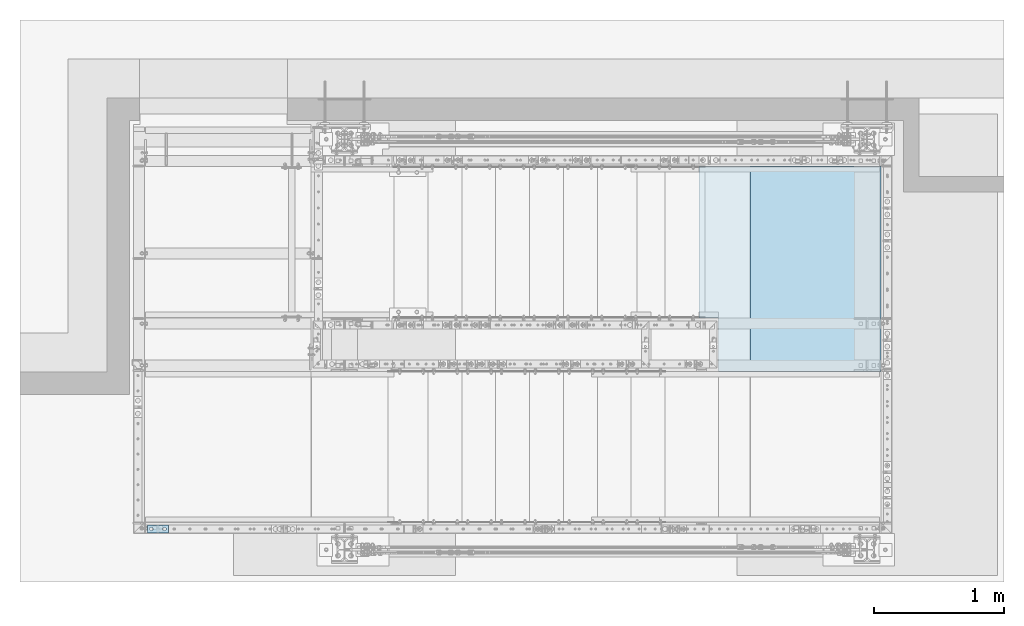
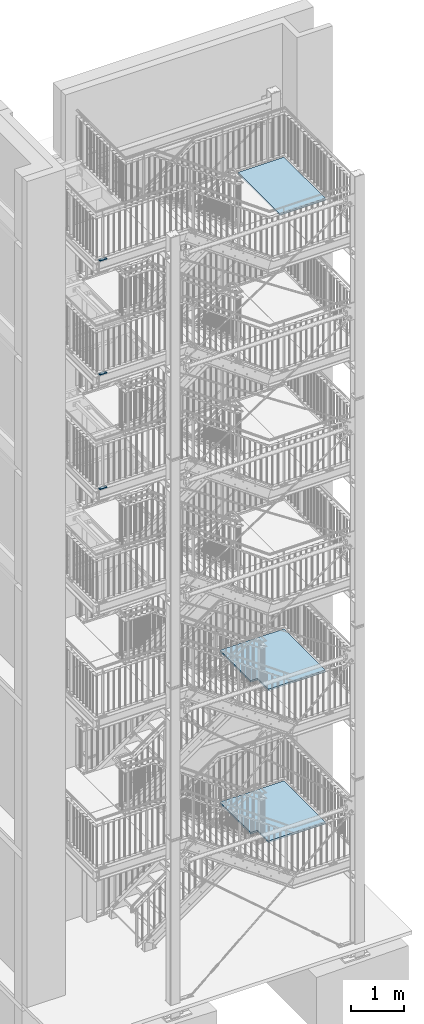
# One storey, part 147 of 831: 6 plates, 8 openings.
"""IFC2X3 building model written with IfcOpenShell, lengths in millimetres."""

import ifcopenshell
import ifcopenshell.guid

model = None  # the IFC model being written
_history = None  # IfcOwnerHistory: only IFC2X3 demands one
_inside = {}  # id of a spatial element -> (the spatial element, [elements in it])
_under = {}  # id of a project, library or spatial element -> (it, [spatial elements below it])
_declared = {}  # id of a project -> (the project, [libraries it declares])
_typed = {}  # id of a type object -> (the type object, [elements of that type])
_made_of = {}  # id of a material, layer set ... -> (it, [elements and type objects made of it])


def new_model(schema):
    """Start an empty IFC model of exactly this schema.

    Asked for "IFC4X3", IfcOpenShell would pick the latest addendum, in which some entities
    have other attributes; the version numbers below select the first issue.
    IFC2X3 requires an IfcOwnerHistory on every rooted entity: one is made here for all.
    """
    global model, _history
    if schema == "IFC4X3":
        model = ifcopenshell.file(schema_version=(4, 3, 0, 0))
    else:
        model = ifcopenshell.file(schema=schema)
    _inside.clear()
    _under.clear()
    _declared.clear()
    _typed.clear()
    _made_of.clear()
    _history = None
    if model.schema == "IFC2X3":
        org = make("IfcOrganization", Name="unknown")
        user = make(
            "IfcPersonAndOrganization",
            ThePerson=make("IfcPerson", FamilyName="unknown"),
            TheOrganization=org,
        )
        app = make(
            "IfcApplication",
            ApplicationDeveloper=org,
            Version="unknown",
            ApplicationFullName="unknown",
            ApplicationIdentifier="unknown",
        )
        _history = make(
            "IfcOwnerHistory",
            OwningUser=user,
            OwningApplication=app,
            ChangeAction="ADDED",
            CreationDate=0,
        )
    return model


def make(cls, **values):
    """One entity of the class cls with the attributes given. An attribute that is None is left unset."""
    return model.create_entity(
        cls, **{name: value for name, value in values.items() if value is not None}
    )


def entity(cls, *values):
    """Any entity or typed value of the class cls, its attributes in the order of the schema. None: left unset."""
    e = model.create_entity(cls)
    for i, value in enumerate(values):
        if value is not None:
            e[i] = value
    return e


def rooted(cls, **values):
    """An entity with a GlobalId (a new one), such as an element, a storey or a relation."""
    return make(cls, GlobalId=ifcopenshell.guid.new(), OwnerHistory=_history, **values)


def si_unit(unit_type, name, prefix=None):
    """IfcSIUnit, for example si_unit("LENGTHUNIT", "METRE", prefix="MILLI")."""
    return make("IfcSIUnit", UnitType=unit_type, Prefix=prefix, Name=name)


def converted_unit(unit_type, name, factor, base, dimensions=None, offset=None):
    """IfcConversionBasedUnit, such as the inch: factor (a typed value) times the base unit."""
    return make(
        "IfcConversionBasedUnit"
        if offset is None
        else "IfcConversionBasedUnitWithOffset",
        ConversionOffset=offset,
        Dimensions=None
        if dimensions is None
        else entity("IfcDimensionalExponents", *dimensions),
        UnitType=unit_type,
        Name=name,
        ConversionFactor=make(
            "IfcMeasureWithUnit", ValueComponent=factor, UnitComponent=base
        ),
    )


def assignment(units):
    """IfcUnitAssignment: the units of a project."""
    return None if units is None else make("IfcUnitAssignment", Units=units)


def point(xyz):
    """IfcCartesianPoint."""
    return None if xyz is None else make("IfcCartesianPoint", Coordinates=xyz)


def direction(xyz):
    """IfcDirection."""
    return None if xyz is None else make("IfcDirection", DirectionRatios=xyz)


def frame(location, z_axis=None, x_axis=None):
    """IfcAxis2Placement3D, a coordinate frame: its origin and axes. An axis left out is left unset."""
    return make(
        "IfcAxis2Placement3D",
        Location=point(location),
        Axis=direction(z_axis),
        RefDirection=direction(x_axis),
    )


def frame_2d(location, x_axis=None):
    """IfcAxis2Placement2D, a coordinate frame in the plane: its origin and x axis."""
    return make(
        "IfcAxis2Placement2D", Location=point(location), RefDirection=direction(x_axis)
    )


def origin():
    """The frame at (0, 0, 0) with its axes left unset."""
    return frame((0.0, 0.0, 0.0))


def origin_with_axes():
    """The frame at (0, 0, 0) with the z axis (0, 0, 1) and the x axis (1, 0, 0) written out."""
    return frame((0.0, 0.0, 0.0), z_axis=(0.0, 0.0, 1.0), x_axis=(1.0, 0.0, 0.0))


def place(relative_to, where):
    """IfcLocalPlacement: puts the frame where relative to a parent placement (None: the world)."""
    return make(
        "IfcLocalPlacement", PlacementRelTo=relative_to, RelativePlacement=where
    )


def context(
    kind, dimensions, precision=None, world=None, true_north=None, identifier=None
):
    """IfcGeometricRepresentationContext, for example the 3D "Model" context."""
    return make(
        "IfcGeometricRepresentationContext",
        ContextIdentifier=identifier,
        ContextType=kind,
        CoordinateSpaceDimension=dimensions,
        Precision=precision,
        WorldCoordinateSystem=world,
        TrueNorth=true_north,
    )


def project(units=None, contexts=None):
    """IfcProject with its units and contexts."""
    return rooted(
        "IfcProject",
        Name="project",
        RepresentationContexts=contexts,
        UnitsInContext=assignment(units),
    )


def spatial(cls, under=None, at=None, **own):
    """A site, building, storey or space (cls), placed at a placement, below another one or the project."""
    s = rooted(cls, ObjectPlacement=at, **own)
    if under is not None:
        _under.setdefault(under.id(), (under, []))[1].append(s)
    return s


def polyline(points):
    """IfcPolyline through the points."""
    return make("IfcPolyline", Points=[point(p) for p in points])


def circle_curve(where, radius):
    """IfcCircle in the frame where."""
    return make("IfcCircle", Position=where, Radius=radius)


def line_curve(start, along, magnitude):
    """IfcLine from a point along a vector."""
    return make(
        "IfcLine",
        Pnt=point(start),
        Dir=make("IfcVector", Orientation=direction(along), Magnitude=magnitude),
    )


def trimmed(basis, trim1, trim2, sense, master):
    """IfcTrimmedCurve: the piece of a basis curve between two trims."""
    return make(
        "IfcTrimmedCurve",
        BasisCurve=basis,
        Trim1=trim1,
        Trim2=trim2,
        SenseAgreement=sense,
        MasterRepresentation=master,
    )


def segment(curve, same_sense, transition):
    """IfcCompositeCurveSegment."""
    return make(
        "IfcCompositeCurveSegment",
        Transition=transition,
        SameSense=same_sense,
        ParentCurve=curve,
    )


def composite_curve(segments, self_intersect=None):
    """IfcCompositeCurve: segments joined end to end."""
    return make("IfcCompositeCurve", Segments=segments, SelfIntersect=self_intersect)


def outline(outer, holes=None, kind="AREA"):
    """IfcArbitraryClosedProfileDef: a profile drawn as a closed curve; with holes, ...WithVoids."""
    if holes is None:
        return make("IfcArbitraryClosedProfileDef", ProfileType=kind, OuterCurve=outer)
    return make(
        "IfcArbitraryProfileDefWithVoids",
        ProfileType=kind,
        OuterCurve=outer,
        InnerCurves=holes,
    )


def extrude(swept, where, along, depth):
    """IfcExtrudedAreaSolid: the profile swept, set in the frame where, extruded along a direction by depth."""
    return make(
        "IfcExtrudedAreaSolid",
        SweptArea=swept,
        Position=where,
        ExtrudedDirection=direction(along),
        Depth=depth,
    )


def shape(context_of_items, identifier, shape_type, items):
    """IfcShapeRepresentation: the items that make up one representation, for example the "Body"."""
    return make(
        "IfcShapeRepresentation",
        ContextOfItems=context_of_items,
        RepresentationIdentifier=identifier,
        RepresentationType=shape_type,
        Items=items,
    )


def material(Name=None, Category=None):
    """IfcMaterial."""
    return make("IfcMaterial", Name=Name, Category=Category)


def layer(
    of_material, thickness, ventilated=None, Name=None, Category=None, Priority=None
):
    """IfcMaterialLayer: one layer of a wall or slab, of a material (None: an air gap)."""
    return make(
        "IfcMaterialLayer",
        Material=of_material,
        LayerThickness=thickness,
        IsVentilated=ventilated,
        Name=Name,
        Category=Category,
        Priority=Priority,
    )


def layer_set(layers, Name=None):
    """IfcMaterialLayerSet."""
    return make("IfcMaterialLayerSet", MaterialLayers=layers, LayerSetName=Name)


def made_of(thing, what):
    """Note that an element or type object is made of a material, layer set ...; save() writes the relation."""
    if what is not None:
        _made_of.setdefault(what.id(), (what, []))[1].append(thing)
    return thing


def element(
    cls,
    number,
    at=None,
    inside=None,
    cuts=None,
    type_object=None,
    material=None,
    context=None,
    identifier="Body",
    shape_type=None,
    held_by="IfcProductDefinitionShape",
    body=None,
    shapes=None,
    **own,
):
    """One element of the class cls, such as IfcWall. Its Tag is "e" and its number.

    at: its placement. inside: the storey or other place that contains it. cuts: it is an
    opening in that element (IfcRelVoidsElement). A single representation is given by context,
    identifier, shape_type and body (its items); several are given by shapes. held_by: the class
    of the entity that holds the representations. save() writes the other relations.
    """
    e = rooted(cls, Tag="e%d" % number, ObjectPlacement=at, **own)
    if body is not None:
        shapes = [shape(context, identifier, shape_type, body)]
    if shapes is not None:
        e.Representation = make(held_by, Representations=shapes)
    if inside is not None:
        _inside.setdefault(inside.id(), (inside, []))[1].append(e)
    if cuts is not None:
        rooted(
            "IfcRelVoidsElement", RelatingBuildingElement=cuts, RelatedOpeningElement=e
        )
    if type_object is not None:
        _typed.setdefault(type_object.id(), (type_object, []))[1].append(e)
    return made_of(e, material)


def aggregate(whole, parts):
    """IfcRelAggregates: a whole, such as a stair, and the parts it consists of."""
    return rooted("IfcRelAggregates", RelatingObject=whole, RelatedObjects=parts)


def save(model, path):
    """Write the relations noted so far, then the file.

    IfcRelAggregates (storeys below a building ...), IfcRelContainedInSpatialStructure (elements
    in a storey), IfcRelDefinesByType, IfcRelAssociatesMaterial and IfcRelDeclares: one each for
    every whole, place, type object, material and project.
    """
    for whole, parts in _under.values():
        aggregate(whole, parts)
    for where, things in _inside.values():
        rooted(
            "IfcRelContainedInSpatialStructure",
            RelatedElements=things,
            RelatingStructure=where,
        )
    for kind, things in _typed.values():
        rooted("IfcRelDefinesByType", RelatedObjects=things, RelatingType=kind)
    for what, things in _made_of.values():
        rooted("IfcRelAssociatesMaterial", RelatedObjects=things, RelatingMaterial=what)
    for by, libraries in _declared.values():
        rooted("IfcRelDeclares", RelatingContext=by, RelatedDefinitions=libraries)
    model.write(path)


model = new_model("IFC2X3")

# Units and contexts
model_context = context("Model", 3, precision=1e-09, world=origin_with_axes())
ifc_project = project(units=[si_unit("LENGTHUNIT", "METRE", prefix="MILLI"), si_unit("AREAUNIT", "SQUARE_METRE"), si_unit("VOLUMEUNIT", "CUBIC_METRE"), converted_unit("PLANEANGLEUNIT", "DEGREE", entity("IfcPlaneAngleMeasure", 0.01745329), si_unit("PLANEANGLEUNIT", "RADIAN"), dimensions=[0, 0, 0, 0, 0, 0, 0])], contexts=[model_context])

# Site, building, storey
site_placement = place(None, origin_with_axes())
site = spatial("IfcSite", under=ifc_project, at=site_placement, Name="Site", CompositionType="ELEMENT")
building_placement = place(site_placement, origin_with_axes())
building = spatial("IfcBuilding", under=site, at=building_placement, Name="Struktur 1", CompositionType="ELEMENT")
storey_placement = place(building_placement, origin_with_axes())
storey = spatial("IfcBuildingStorey", under=building, at=storey_placement, Name="Default Storey", CompositionType="ELEMENT", Elevation=0.0)

# Plate, openings
ifc_material = material(Name="S235JR")
ifc_layer_1 = layer(ifc_material, 20.0)
ifc_layer_set_1 = layer_set([ifc_layer_1], Name="S235JR")
plate_1_placement = place(None, frame((3344.79154585, 4496.736971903, 12579.0), z_axis=(0.0, 0.0, 1.0), x_axis=(1.0, 0.0, 0.0)))
plate_1 = element("IfcPlate", 1, at=plate_1_placement, inside=storey, material=ifc_layer_set_1, Name="Plate#513", ObjectType="Plate#513", context=model_context, shape_type="SweptSolid", body=[
    extrude(outline(polyline([(0.0, 0.0), (160.0, 0.0), (160.0, 60.0), (0.0, 60.0), (0.0, 0.0)])), origin_with_axes(), (0.0, 0.0, 1.0), 20.0),
])
opening_1_placement = place(plate_1_placement, frame((38.0, 37.001, 20.5), z_axis=(0.0, 0.0, 1.0), x_axis=(-1.0, 0.0, 0.0)))
element("IfcOpeningElement", 2, at=opening_1_placement, cuts=plate_1, ObjectType="Opening", context=model_context, shape_type="SweptSolid", body=[
    extrude(outline(composite_curve([segment(trimmed(line_curve((0.0, 0.0), (1.0, 0.0), 16.0), [point((0.0, 0.0))], [point((16.0, 0.0))], True, "CARTESIAN"), True, "CONTINUOUS"), segment(trimmed(circle_curve(frame_2d((16.0, 7.001), x_axis=(1.0, 0.0)), 7.001), [point((16.0, 0.0))], [point((16.0, 14.002))], True, "CARTESIAN"), True, "CONTINUOUS"), segment(trimmed(line_curve((16.0, 14.002), (-1.0, 0.0), 16.0), [point((16.0, 14.002))], [point((0.0, 14.002))], True, "CARTESIAN"), True, "CONTINUOUS"), segment(trimmed(circle_curve(frame_2d((0.0, 7.001), x_axis=(1.0, 0.0)), 7.001), [point((0.0, 14.002))], [point((0.0, 0.0))], True, "CARTESIAN"), True, "CONTINUOUS")], self_intersect=False)), origin(), (0.0, 0.0, -1.0), 21.0),
])
opening_2_placement = place(plate_1_placement, frame((138.0, 37.001, 20.5), z_axis=(0.0, 0.0, 1.0), x_axis=(-1.0, 0.0, 0.0)))
element("IfcOpeningElement", 3, at=opening_2_placement, cuts=plate_1, ObjectType="Opening", context=model_context, shape_type="SweptSolid", body=[
    extrude(outline(composite_curve([segment(trimmed(line_curve((0.0, 0.0), (1.0, 0.0), 16.0), [point((0.0, 0.0))], [point((16.0, 0.0))], True, "CARTESIAN"), True, "CONTINUOUS"), segment(trimmed(circle_curve(frame_2d((16.0, 7.001), x_axis=(1.0, 0.0)), 7.001), [point((16.0, 0.0))], [point((16.0, 14.002))], True, "CARTESIAN"), True, "CONTINUOUS"), segment(trimmed(line_curve((16.0, 14.002), (-1.0, 0.0), 16.0), [point((16.0, 14.002))], [point((0.0, 14.002))], True, "CARTESIAN"), True, "CONTINUOUS"), segment(trimmed(circle_curve(frame_2d((0.0, 7.001), x_axis=(1.0, 0.0)), 7.001), [point((0.0, 14.002))], [point((0.0, 0.0))], True, "CARTESIAN"), True, "CONTINUOUS")], self_intersect=False)), origin(), (0.0, 0.0, -1.0), 21.0),
])

plate_2_placement = place(None, frame((3344.79154585, 4496.736971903, 15214.0), z_axis=(0.0, 0.0, 1.0), x_axis=(1.0, 0.0, 0.0)))
plate_2 = element("IfcPlate", 4, at=plate_2_placement, inside=storey, material=ifc_layer_set_1, Name="Plate#513", ObjectType="Plate#513", context=model_context, shape_type="SweptSolid", body=[
    extrude(outline(polyline([(0.0, 0.0), (160.0, 0.0), (160.0, 60.0), (0.0, 60.0), (0.0, 0.0)])), origin_with_axes(), (0.0, 0.0, 1.0), 20.0),
])
opening_3_placement = place(plate_2_placement, frame((38.0, 37.001, 20.5), z_axis=(0.0, 0.0, 1.0), x_axis=(-1.0, 0.0, 0.0)))
element("IfcOpeningElement", 5, at=opening_3_placement, cuts=plate_2, ObjectType="Opening", context=model_context, shape_type="SweptSolid", body=[
    extrude(outline(composite_curve([segment(trimmed(line_curve((0.0, 0.0), (1.0, 0.0), 16.0), [point((0.0, 0.0))], [point((16.0, 0.0))], True, "CARTESIAN"), True, "CONTINUOUS"), segment(trimmed(circle_curve(frame_2d((16.0, 7.001), x_axis=(1.0, 0.0)), 7.001), [point((16.0, 0.0))], [point((16.0, 14.002))], True, "CARTESIAN"), True, "CONTINUOUS"), segment(trimmed(line_curve((16.0, 14.002), (-1.0, 0.0), 16.0), [point((16.0, 14.002))], [point((0.0, 14.002))], True, "CARTESIAN"), True, "CONTINUOUS"), segment(trimmed(circle_curve(frame_2d((0.0, 7.001), x_axis=(1.0, 0.0)), 7.001), [point((0.0, 14.002))], [point((0.0, 0.0))], True, "CARTESIAN"), True, "CONTINUOUS")], self_intersect=False)), origin(), (0.0, 0.0, -1.0), 21.0),
])
opening_4_placement = place(plate_2_placement, frame((138.0, 37.001, 20.5), z_axis=(0.0, 0.0, 1.0), x_axis=(-1.0, 0.0, 0.0)))
element("IfcOpeningElement", 6, at=opening_4_placement, cuts=plate_2, ObjectType="Opening", context=model_context, shape_type="SweptSolid", body=[
    extrude(outline(composite_curve([segment(trimmed(line_curve((0.0, 0.0), (1.0, 0.0), 16.0), [point((0.0, 0.0))], [point((16.0, 0.0))], True, "CARTESIAN"), True, "CONTINUOUS"), segment(trimmed(circle_curve(frame_2d((16.0, 7.001), x_axis=(1.0, 0.0)), 7.001), [point((16.0, 0.0))], [point((16.0, 14.002))], True, "CARTESIAN"), True, "CONTINUOUS"), segment(trimmed(line_curve((16.0, 14.002), (-1.0, 0.0), 16.0), [point((16.0, 14.002))], [point((0.0, 14.002))], True, "CARTESIAN"), True, "CONTINUOUS"), segment(trimmed(circle_curve(frame_2d((0.0, 7.001), x_axis=(1.0, 0.0)), 7.001), [point((0.0, 14.002))], [point((0.0, 0.0))], True, "CARTESIAN"), True, "CONTINUOUS")], self_intersect=False)), origin(), (0.0, 0.0, -1.0), 21.0),
])

plate_3_placement = place(None, frame((3344.79154585, 4496.736971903, 17834.0), z_axis=(0.0, 0.0, 1.0), x_axis=(1.0, 0.0, 0.0)))
plate_3 = element("IfcPlate", 7, at=plate_3_placement, inside=storey, material=ifc_layer_set_1, Name="Plate#513", ObjectType="Plate#513", context=model_context, shape_type="SweptSolid", body=[
    extrude(outline(polyline([(0.0, 0.0), (160.0, 0.0), (160.0, 60.0), (0.0, 60.0), (0.0, 0.0)])), origin_with_axes(), (0.0, 0.0, 1.0), 20.0),
])
opening_5_placement = place(plate_3_placement, frame((38.0, 37.001, 20.5), z_axis=(0.0, 0.0, 1.0), x_axis=(-1.0, 0.0, 0.0)))
element("IfcOpeningElement", 8, at=opening_5_placement, cuts=plate_3, ObjectType="Opening", context=model_context, shape_type="SweptSolid", body=[
    extrude(outline(composite_curve([segment(trimmed(line_curve((0.0, 0.0), (1.0, 0.0), 16.0), [point((0.0, 0.0))], [point((16.0, 0.0))], True, "CARTESIAN"), True, "CONTINUOUS"), segment(trimmed(circle_curve(frame_2d((16.0, 7.001), x_axis=(1.0, 0.0)), 7.001), [point((16.0, 0.0))], [point((16.0, 14.002))], True, "CARTESIAN"), True, "CONTINUOUS"), segment(trimmed(line_curve((16.0, 14.002), (-1.0, 0.0), 16.0), [point((16.0, 14.002))], [point((0.0, 14.002))], True, "CARTESIAN"), True, "CONTINUOUS"), segment(trimmed(circle_curve(frame_2d((0.0, 7.001), x_axis=(1.0, 0.0)), 7.001), [point((0.0, 14.002))], [point((0.0, 0.0))], True, "CARTESIAN"), True, "CONTINUOUS")], self_intersect=False)), origin(), (0.0, 0.0, -1.0), 21.0),
])
opening_6_placement = place(plate_3_placement, frame((138.0, 37.001, 20.5), z_axis=(0.0, 0.0, 1.0), x_axis=(-1.0, 0.0, 0.0)))
element("IfcOpeningElement", 9, at=opening_6_placement, cuts=plate_3, ObjectType="Opening", context=model_context, shape_type="SweptSolid", body=[
    extrude(outline(composite_curve([segment(trimmed(line_curve((0.0, 0.0), (1.0, 0.0), 16.0), [point((0.0, 0.0))], [point((16.0, 0.0))], True, "CARTESIAN"), True, "CONTINUOUS"), segment(trimmed(circle_curve(frame_2d((16.0, 7.001), x_axis=(1.0, 0.0)), 7.001), [point((16.0, 0.0))], [point((16.0, 14.002))], True, "CARTESIAN"), True, "CONTINUOUS"), segment(trimmed(line_curve((16.0, 14.002), (-1.0, 0.0), 16.0), [point((16.0, 14.002))], [point((0.0, 14.002))], True, "CARTESIAN"), True, "CONTINUOUS"), segment(trimmed(circle_curve(frame_2d((0.0, 7.001), x_axis=(1.0, 0.0)), 7.001), [point((0.0, 14.002))], [point((0.0, 0.0))], True, "CARTESIAN"), True, "CONTINUOUS")], self_intersect=False)), origin(), (0.0, 0.0, -1.0), 21.0),
])

# Plate
ifc_layer_2 = layer(ifc_material, 40.0)
ifc_layer_set_2 = layer_set([ifc_layer_2], Name="S235JR")
plate_4_placement = place(None, frame((7056.713402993, 6146.736971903, 16524.0000003), z_axis=(0.0, 0.0, 1.0), x_axis=(1.0, 0.0, 0.0)))
element("IfcPlate", 10, at=plate_4_placement, inside=storey, material=ifc_layer_set_2, Name="TopCoverGrate", ObjectType="TopCoverGrate", context=model_context, shape_type="SweptSolid", body=[
    extrude(outline(polyline([(915.0, 1160.0), (915.0, -410.0), (1915.0, -410.0), (1915.0, 1160.0), (915.0, 1160.0)])), origin_with_axes(), (0.0, 0.0, 1.0), 40.0),
])

# Plate, opening
plate_5_placement = place(None, frame((7576.713402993, 6146.736971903, 5674.8947367), z_axis=(0.0, 0.0, 1.0), x_axis=(1.0, 0.0, 0.0)))
plate_5 = element("IfcPlate", 11, at=plate_5_placement, inside=storey, material=ifc_layer_set_2, Name="TopCoverGrate", ObjectType="TopCoverGrate", context=model_context, shape_type="SweptSolid", body=[
    extrude(outline(polyline([(0.0, -410.0), (1395.0, -410.0), (1395.0, 1160.0), (0.0, 1160.0), (0.0, -410.0)])), origin_with_axes(), (0.0, 0.0, 1.0), 40.0),
])
opening_7_placement = place(plate_5_placement, frame((0.0, 0.0, -0.1), z_axis=(0.0, 0.0, 1.0), x_axis=(-1.0, 0.0, 0.0)))
element("IfcOpeningElement", 12, at=opening_7_placement, cuts=plate_5, ObjectType="Opening", context=model_context, shape_type="SweptSolid", body=[
    extrude(outline(polyline([(-150.001, -0.001), (141.813694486, -0.001), (141.813694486, 522.421449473), (-150.001, 522.421449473), (-150.001, -0.001)])), origin(), (0.0, 0.0, 1.0), 40.2),
])

plate_6_placement = place(None, frame((7576.713402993, 6146.736971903, 2181.0526312), z_axis=(0.0, 0.0, 1.0), x_axis=(1.0, 0.0, 0.0)))
plate_6 = element("IfcPlate", 13, at=plate_6_placement, inside=storey, material=ifc_layer_set_2, Name="TopCoverGrate", ObjectType="TopCoverGrate", context=model_context, shape_type="SweptSolid", body=[
    extrude(outline(polyline([(0.0, -410.0), (1395.0, -410.0), (1395.0, 1160.0), (0.0, 1160.0), (0.0, -410.0)])), origin_with_axes(), (0.0, 0.0, 1.0), 40.0),
])
opening_8_placement = place(plate_6_placement, frame((0.0, 0.0, -0.1), z_axis=(0.0, 0.0, 1.0), x_axis=(1.0, 0.0, 0.0)))
element("IfcOpeningElement", 14, at=opening_8_placement, cuts=plate_6, ObjectType="Opening", context=model_context, shape_type="SweptSolid", body=[
    extrude(outline(polyline([(-116.977203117, -541.699703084), (150.001, -541.699703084), (150.001, 0.001), (-116.977203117, 0.001), (-116.977203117, -541.699703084)])), origin(), (0.0, 0.0, 1.0), 40.2),
])

save(model, "model.ifc")
